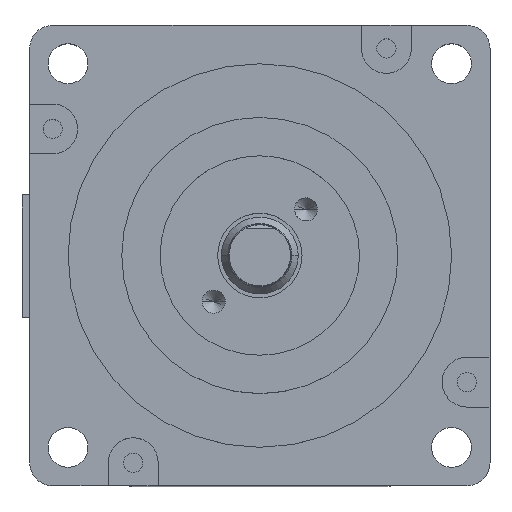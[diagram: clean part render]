
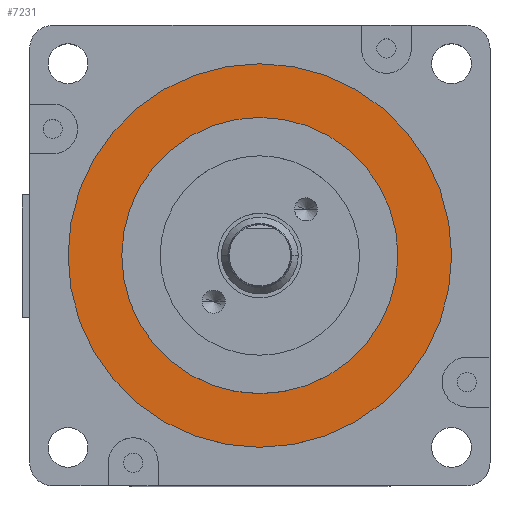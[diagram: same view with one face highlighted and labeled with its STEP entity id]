
A CAD part, top view. The second image highlights one B-rep face of the part: STEP entity #7231.
In plain terms, the highlighted planar face has unit normal (0, 0, 1).
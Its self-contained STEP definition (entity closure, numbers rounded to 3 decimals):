
#88=CARTESIAN_POINT('',(30.,30.,85.8));
#89=DIRECTION('',(0.,0.,-1.));
#90=DIRECTION('',(1.,0.,0.));
#91=AXIS2_PLACEMENT_3D('',#88,#89,#90);
#93=CARTESIAN_POINT('',(30.,30.,85.8));
#94=DIRECTION('',(0.,0.,-1.));
#95=DIRECTION('',(-1.,0.,0.));
#96=AXIS2_PLACEMENT_3D('',#93,#94,#95);
#98=CARTESIAN_POINT('',(30.,30.,85.8));
#99=DIRECTION('',(0.,0.,1.));
#100=DIRECTION('',(1.,0.,0.));
#101=AXIS2_PLACEMENT_3D('',#98,#99,#100);
#103=CARTESIAN_POINT('',(30.,30.,85.8));
#104=DIRECTION('',(0.,0.,1.));
#105=DIRECTION('',(-1.,0.,0.));
#106=AXIS2_PLACEMENT_3D('',#103,#104,#105);
#6194=CARTESIAN_POINT('',(12.,30.,85.8));
#6195=VERTEX_POINT('',#6194);
#6196=CARTESIAN_POINT('',(48.,30.,85.8));
#6197=VERTEX_POINT('',#6196);
#6198=CARTESIAN_POINT('',(55.,30.,85.8));
#6199=CARTESIAN_POINT('',(5.,30.,85.8));
#6200=VERTEX_POINT('',#6198);
#6201=VERTEX_POINT('',#6199);
#7216=CARTESIAN_POINT('',(30.,30.,85.8));
#7217=DIRECTION('',(0.,0.,-1.));
#7218=DIRECTION('',(-1.,0.,0.));
#7219=AXIS2_PLACEMENT_3D('',#7216,#7217,#7218);
#7220=PLANE('',#7219);
#7222=ORIENTED_EDGE('',*,*,#7221,.T.);
#7224=ORIENTED_EDGE('',*,*,#7223,.T.);
#7225=EDGE_LOOP('',(#7222,#7224));
#7226=FACE_OUTER_BOUND('',#7225,.F.);
#7227=ORIENTED_EDGE('',*,*,#7196,.T.);
#7228=ORIENTED_EDGE('',*,*,#7210,.T.);
#7229=EDGE_LOOP('',(#7227,#7228));
#7230=FACE_BOUND('',#7229,.F.);
#7231=ADVANCED_FACE('',(#7226,#7230),#7220,.F.);
#92=CIRCLE('',#91,25.);
#97=CIRCLE('',#96,25.);
#102=CIRCLE('',#101,18.);
#107=CIRCLE('',#106,18.);
#7196=EDGE_CURVE('',#6197,#6195,#102,.T.);
#7210=EDGE_CURVE('',#6195,#6197,#107,.T.);
#7221=EDGE_CURVE('',#6200,#6201,#92,.T.);
#7223=EDGE_CURVE('',#6201,#6200,#97,.T.);
